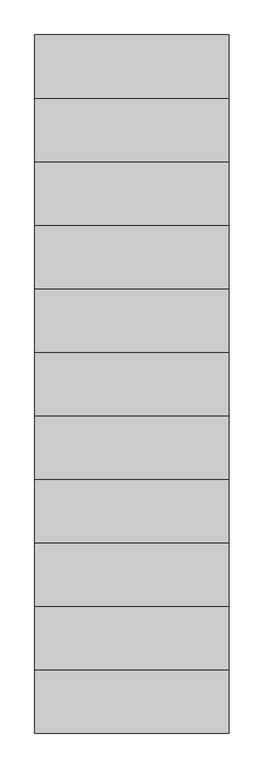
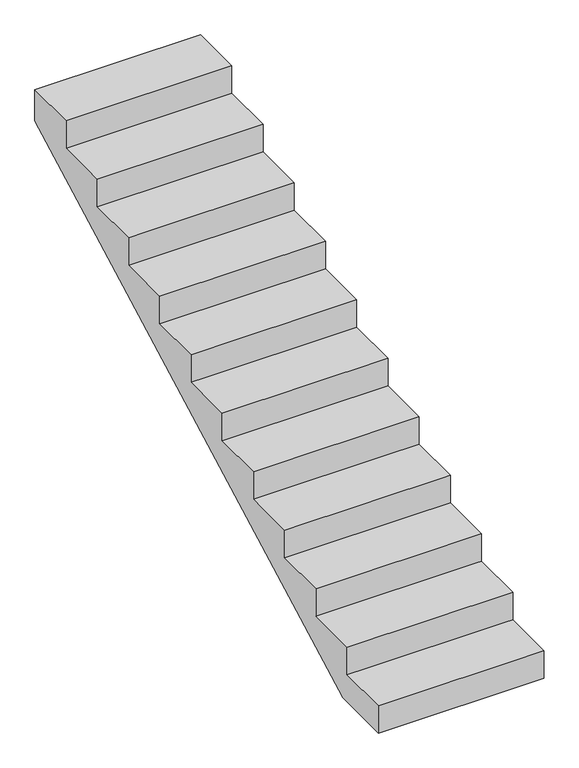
"""IFC4 building model written with IfcOpenShell, lengths in millimetres: proxy geometry, Modele ogólne 1 : Modele ogólne 1."""

import ifcopenshell
import ifcopenshell.guid

model = None  # the IFC model being written
_history = None  # IfcOwnerHistory: only IFC2X3 demands one
_inside = {}  # id of a spatial element -> (the spatial element, [elements in it])
_under = {}  # id of a project, library or spatial element -> (it, [spatial elements below it])
_declared = {}  # id of a project -> (the project, [libraries it declares])
_typed = {}  # id of a type object -> (the type object, [elements of that type])
_made_of = {}  # id of a material, layer set ... -> (it, [elements and type objects made of it])


def new_model(schema):
    """Start an empty IFC model of exactly this schema.

    Asked for "IFC4X3", IfcOpenShell would pick the latest addendum, in which some entities
    have other attributes; the version numbers below select the first issue.
    IFC2X3 requires an IfcOwnerHistory on every rooted entity: one is made here for all.
    """
    global model, _history
    if schema == "IFC4X3":
        model = ifcopenshell.file(schema_version=(4, 3, 0, 0))
    else:
        model = ifcopenshell.file(schema=schema)
    _inside.clear()
    _under.clear()
    _declared.clear()
    _typed.clear()
    _made_of.clear()
    _history = None
    if model.schema == "IFC2X3":
        org = make("IfcOrganization", Name="unknown")
        user = make(
            "IfcPersonAndOrganization",
            ThePerson=make("IfcPerson", FamilyName="unknown"),
            TheOrganization=org,
        )
        app = make(
            "IfcApplication",
            ApplicationDeveloper=org,
            Version="unknown",
            ApplicationFullName="unknown",
            ApplicationIdentifier="unknown",
        )
        _history = make(
            "IfcOwnerHistory",
            OwningUser=user,
            OwningApplication=app,
            ChangeAction="ADDED",
            CreationDate=0,
        )
    return model


def make(cls, **values):
    """One entity of the class cls with the attributes given. An attribute that is None is left unset."""
    return model.create_entity(
        cls, **{name: value for name, value in values.items() if value is not None}
    )


def rooted(cls, **values):
    """An entity with a GlobalId (a new one), such as an element, a storey or a relation."""
    return make(cls, GlobalId=ifcopenshell.guid.new(), OwnerHistory=_history, **values)


def si_unit(unit_type, name, prefix=None):
    """IfcSIUnit, for example si_unit("LENGTHUNIT", "METRE", prefix="MILLI")."""
    return make("IfcSIUnit", UnitType=unit_type, Prefix=prefix, Name=name)


def assignment(units):
    """IfcUnitAssignment: the units of a project."""
    return None if units is None else make("IfcUnitAssignment", Units=units)


def point(xyz):
    """IfcCartesianPoint."""
    return None if xyz is None else make("IfcCartesianPoint", Coordinates=xyz)


def direction(xyz):
    """IfcDirection."""
    return None if xyz is None else make("IfcDirection", DirectionRatios=xyz)


def frame(location, z_axis=None, x_axis=None):
    """IfcAxis2Placement3D, a coordinate frame: its origin and axes. An axis left out is left unset."""
    return make(
        "IfcAxis2Placement3D",
        Location=point(location),
        Axis=direction(z_axis),
        RefDirection=direction(x_axis),
    )


def origin():
    """The frame at (0, 0, 0) with its axes left unset."""
    return frame((0.0, 0.0, 0.0))


def place(relative_to, where):
    """IfcLocalPlacement: puts the frame where relative to a parent placement (None: the world)."""
    return make(
        "IfcLocalPlacement", PlacementRelTo=relative_to, RelativePlacement=where
    )


def context(
    kind, dimensions, precision=None, world=None, true_north=None, identifier=None
):
    """IfcGeometricRepresentationContext, for example the 3D "Model" context."""
    return make(
        "IfcGeometricRepresentationContext",
        ContextIdentifier=identifier,
        ContextType=kind,
        CoordinateSpaceDimension=dimensions,
        Precision=precision,
        WorldCoordinateSystem=world,
        TrueNorth=true_north,
    )


def project(units=None, contexts=None):
    """IfcProject with its units and contexts."""
    return rooted(
        "IfcProject",
        Name="project",
        RepresentationContexts=contexts,
        UnitsInContext=assignment(units),
    )


def spatial(cls, under=None, at=None, **own):
    """A site, building, storey or space (cls), placed at a placement, below another one or the project."""
    s = rooted(cls, ObjectPlacement=at, **own)
    if under is not None:
        _under.setdefault(under.id(), (under, []))[1].append(s)
    return s


def polyline(points):
    """IfcPolyline through the points."""
    return make("IfcPolyline", Points=[point(p) for p in points])


def outline(outer, holes=None, kind="AREA"):
    """IfcArbitraryClosedProfileDef: a profile drawn as a closed curve; with holes, ...WithVoids."""
    if holes is None:
        return make("IfcArbitraryClosedProfileDef", ProfileType=kind, OuterCurve=outer)
    return make(
        "IfcArbitraryProfileDefWithVoids",
        ProfileType=kind,
        OuterCurve=outer,
        InnerCurves=holes,
    )


def extrude(swept, where, along, depth):
    """IfcExtrudedAreaSolid: the profile swept, set in the frame where, extruded along a direction by depth."""
    return make(
        "IfcExtrudedAreaSolid",
        SweptArea=swept,
        Position=where,
        ExtrudedDirection=direction(along),
        Depth=depth,
    )


def shape(context_of_items, identifier, shape_type, items):
    """IfcShapeRepresentation: the items that make up one representation, for example the "Body"."""
    return make(
        "IfcShapeRepresentation",
        ContextOfItems=context_of_items,
        RepresentationIdentifier=identifier,
        RepresentationType=shape_type,
        Items=items,
    )


def source(mapping_origin, context_of_items, identifier, shape_type, items):
    """IfcRepresentationMap: a shape defined once, which mapped items show again and again."""
    return make(
        "IfcRepresentationMap",
        MappingOrigin=mapping_origin,
        MappedRepresentation=shape(context_of_items, identifier, shape_type, items),
    )


def transform(
    local_origin,
    x_axis=None,
    y_axis=None,
    z_axis=None,
    scale=None,
    scale2=None,
    scale3=None,
    uniform=True,
):
    """IfcCartesianTransformationOperator3D, or its non-uniform kind. x_axis, y_axis, z_axis: its Axis1, 2, 3."""
    if uniform:
        return make(
            "IfcCartesianTransformationOperator3D",
            Axis1=direction(x_axis),
            Axis2=direction(y_axis),
            LocalOrigin=point(local_origin),
            Scale=scale,
            Axis3=direction(z_axis),
        )
    return make(
        "IfcCartesianTransformationOperator3DnonUniform",
        Axis1=direction(x_axis),
        Axis2=direction(y_axis),
        LocalOrigin=point(local_origin),
        Scale=scale,
        Axis3=direction(z_axis),
        Scale2=scale2,
        Scale3=scale3,
    )


def mapped(mapping_source, mapping_target):
    """IfcMappedItem: shows the shape of a source again, moved by a transform."""
    return make(
        "IfcMappedItem", MappingSource=mapping_source, MappingTarget=mapping_target
    )


def made_of(thing, what):
    """Note that an element or type object is made of a material, layer set ...; save() writes the relation."""
    if what is not None:
        _made_of.setdefault(what.id(), (what, []))[1].append(thing)
    return thing


def element(
    cls,
    number,
    at=None,
    inside=None,
    cuts=None,
    type_object=None,
    material=None,
    context=None,
    identifier="Body",
    shape_type=None,
    held_by="IfcProductDefinitionShape",
    body=None,
    shapes=None,
    **own,
):
    """One element of the class cls, such as IfcWall. Its Tag is "e" and its number.

    at: its placement. inside: the storey or other place that contains it. cuts: it is an
    opening in that element (IfcRelVoidsElement). A single representation is given by context,
    identifier, shape_type and body (its items); several are given by shapes. held_by: the class
    of the entity that holds the representations. save() writes the other relations.
    """
    e = rooted(cls, Tag="e%d" % number, ObjectPlacement=at, **own)
    if body is not None:
        shapes = [shape(context, identifier, shape_type, body)]
    if shapes is not None:
        e.Representation = make(held_by, Representations=shapes)
    if inside is not None:
        _inside.setdefault(inside.id(), (inside, []))[1].append(e)
    if cuts is not None:
        rooted(
            "IfcRelVoidsElement", RelatingBuildingElement=cuts, RelatedOpeningElement=e
        )
    if type_object is not None:
        _typed.setdefault(type_object.id(), (type_object, []))[1].append(e)
    return made_of(e, material)


def aggregate(whole, parts):
    """IfcRelAggregates: a whole, such as a stair, and the parts it consists of."""
    return rooted("IfcRelAggregates", RelatingObject=whole, RelatedObjects=parts)


def save(model, path):
    """Write the relations noted so far, then the file.

    IfcRelAggregates (storeys below a building ...), IfcRelContainedInSpatialStructure (elements
    in a storey), IfcRelDefinesByType, IfcRelAssociatesMaterial and IfcRelDeclares: one each for
    every whole, place, type object, material and project.
    """
    for whole, parts in _under.values():
        aggregate(whole, parts)
    for where, things in _inside.values():
        rooted(
            "IfcRelContainedInSpatialStructure",
            RelatedElements=things,
            RelatingStructure=where,
        )
    for kind, things in _typed.values():
        rooted("IfcRelDefinesByType", RelatedObjects=things, RelatingType=kind)
    for what, things in _made_of.values():
        rooted("IfcRelAssociatesMaterial", RelatedObjects=things, RelatingMaterial=what)
    for by, libraries in _declared.values():
        rooted("IfcRelDeclares", RelatingContext=by, RelatedDefinitions=libraries)
    model.write(path)


def generic_models_da7c4b98(model_context):
    return source(origin(), model_context, "Body", "SweptSolid", [
        extrude(outline(polyline([(-8109.2028197, 150.0), (-8109.2028197, 300.0), (-7829.2028197, 300.0), (-7829.2028197, 450.0), (-7549.2028197, 450.0), (-7549.2028197, 600.0), (-7269.2028197, 600.0), (-7269.2028197, 750.0), (-6989.2028197, 750.0), (-6989.2028197, 900.0), (-6709.2028197, 900.0), (-6709.2028197, 1050.0), (-6429.2028197, 1050.0), (-6429.2028197, 1200.0), (-6149.2028197, 1200.0), (-6149.2028197, 1350.0), (-5869.2028197, 1350.0), (-5869.2028197, 1500.0), (-5589.2028197, 1500.0), (-5589.2028197, 1329.831641), (-8351.5552163, -150.0), (-8669.2028197, -150.0), (-8669.2028197, 0.0), (-8389.2028197, 0.0), (-8389.2028197, 150.0), (-8109.2028197, 150.0)])), frame((6138.7454116, 0.0, 0.0), z_axis=(1.0, 0.0, 0.0), x_axis=(0.0, 1.0, 0.0)), (0.0, 0.0, 1.0), 857.3106056),
    ])


if __name__ == "__main__":
    model = new_model("IFC4")
    model_context = context("Model", 3, world=origin())
    ifc_project = project(units=[si_unit("LENGTHUNIT", "METRE", prefix="MILLI")], contexts=[model_context])
    site = spatial("IfcSite", under=ifc_project)
    building = spatial("IfcBuilding", under=site)
    placement = place(None, origin())
    generic_models_shape = generic_models_da7c4b98(model_context)
    element("IfcBuildingElementProxy", 1, Name="Modele ogólne 1 : Modele ogólne 1", ObjectType="Modele ogólne 1 : Modele ogólne 1", at=placement, inside=building, context=model_context, shape_type="MappedRepresentation", body=[
        mapped(generic_models_shape, transform((0.0, 0.0, 0.0), x_axis=(1.0, 0.0, 0.0), y_axis=(0.0, 1.0, 0.0), z_axis=(0.0, 0.0, 1.0))),
    ])
    save(model, "model.ifc")
